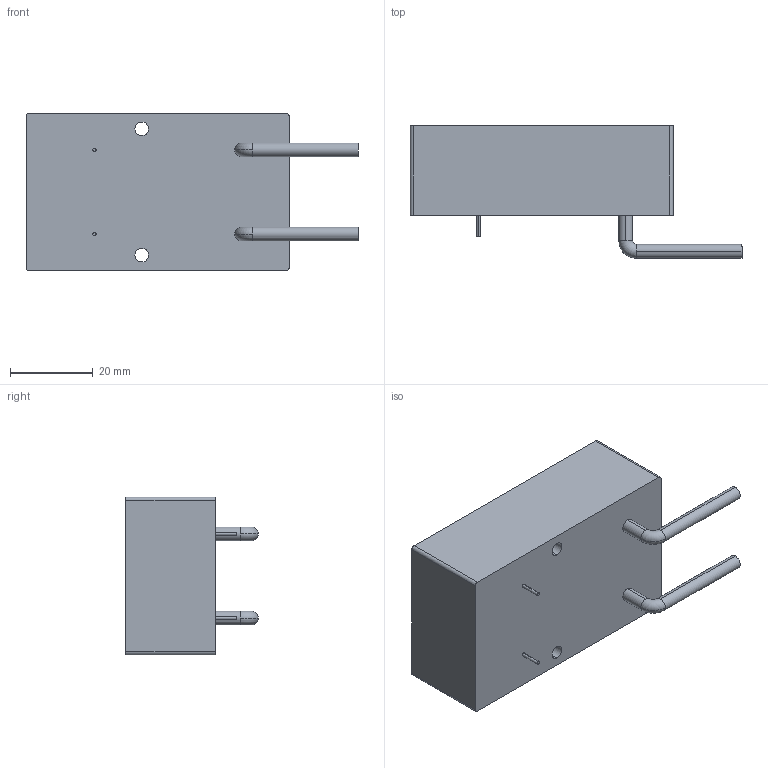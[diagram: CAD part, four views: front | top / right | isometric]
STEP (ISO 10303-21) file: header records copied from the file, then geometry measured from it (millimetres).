
FILE_DESCRIPTION (( 'STEP AP214' ), '1' );
FILE_NAME ('E70-E80.STEP', '2017-10-17T16:39:58', ( '' ), ( '' ), 'SwSTEP 2.0', 'SolidWorks 2017', '' );
FILE_SCHEMA (( 'AUTOMOTIVE_DESIGN' ));
Length unit declared in the file: inch
Products named in the file (1): E70-E80
Bounding box: 80.14 x 31.93 x 38.1 mm (x, y, z)
Volume: 52474.8 mm3; surface area: 10372.6 mm2
Topology: 1 solids, 1 shells, 34 faces, 84 edges, 56 vertices
Faces by surface type: cylinder 20, plane 10, torus 4
Entity records: 1530 total; most frequent: DIRECTION 206, CARTESIAN_POINT 175, ORIENTED_EDGE 168, AXIS2_PLACEMENT_3D 87, EDGE_CURVE 84, VERTEX_POINT 56, CIRCLE 52, EDGE_LOOP 42
